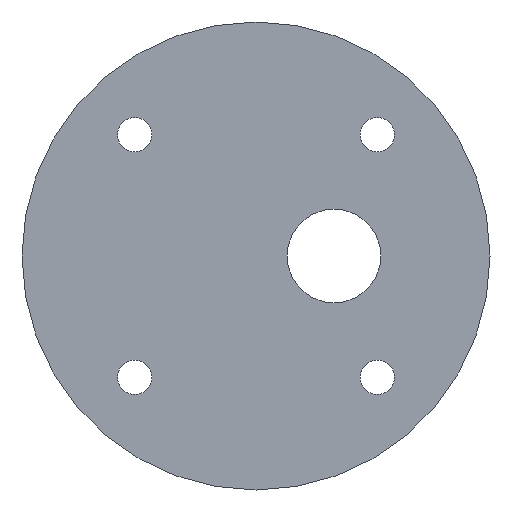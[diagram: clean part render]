
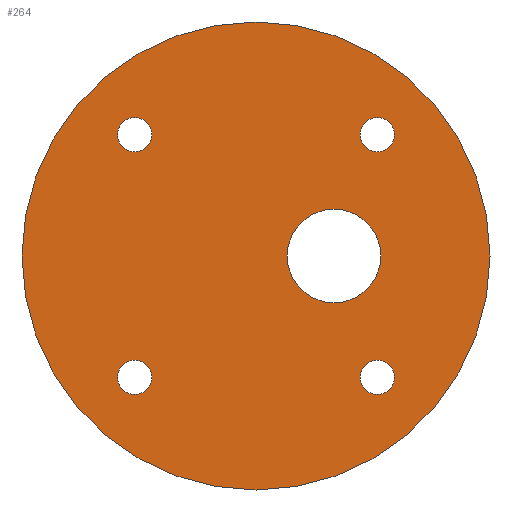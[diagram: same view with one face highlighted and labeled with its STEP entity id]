
A CAD part, left-side view. The second image highlights one B-rep face of the part: STEP entity #264.
In plain terms, the highlighted planar face has unit normal (-1, 0, 0).
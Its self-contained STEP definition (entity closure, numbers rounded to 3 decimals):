
#31 = CYLINDRICAL_SURFACE('',#32,150.);
#32 = AXIS2_PLACEMENT_3D('',#33,#34,#35);
#33 = CARTESIAN_POINT('',(938.,100.,1100.));
#34 = DIRECTION('',(1.,0.,0.));
#35 = DIRECTION('',(-0.,0.,1.));
#56 = VERTEX_POINT('',#57);
#57 = CARTESIAN_POINT('',(938.,100.,1250.));
#78 = EDGE_CURVE('',#56,#56,#79,.T.);
#79 = SURFACE_CURVE('',#80,(#85,#92),.PCURVE_S1.);
#80 = CIRCLE('',#81,150.);
#81 = AXIS2_PLACEMENT_3D('',#82,#83,#84);
#82 = CARTESIAN_POINT('',(938.,100.,1100.));
#83 = DIRECTION('',(1.,0.,0.));
#84 = DIRECTION('',(-0.,0.,1.));
#85 = PCURVE('',#31,#86);
#86 = DEFINITIONAL_REPRESENTATION('',(#87),#91);
#87 = LINE('',#88,#89);
#88 = CARTESIAN_POINT('',(0.,0.));
#89 = VECTOR('',#90,1.);
#90 = DIRECTION('',(1.,0.));
#91 = ( GEOMETRIC_REPRESENTATION_CONTEXT(2) 
PARAMETRIC_REPRESENTATION_CONTEXT() REPRESENTATION_CONTEXT('2D SPACE',''
  ) );
#92 = PCURVE('',#93,#98);
#93 = PLANE('',#94);
#94 = AXIS2_PLACEMENT_3D('',#95,#96,#97);
#95 = CARTESIAN_POINT('',(938.,100.,1100.));
#96 = DIRECTION('',(1.,0.,0.));
#97 = DIRECTION('',(-0.,0.,1.));
#98 = DEFINITIONAL_REPRESENTATION('',(#99),#103);
#99 = CIRCLE('',#100,150.);
#100 = AXIS2_PLACEMENT_2D('',#101,#102);
#101 = CARTESIAN_POINT('',(0.,0.));
#102 = DIRECTION('',(1.,0.));
#103 = ( GEOMETRIC_REPRESENTATION_CONTEXT(2) 
PARAMETRIC_REPRESENTATION_CONTEXT() REPRESENTATION_CONTEXT('2D SPACE',''
  ) );
#129 = CYLINDRICAL_SURFACE('',#130,11.);
#130 = AXIS2_PLACEMENT_3D('',#131,#132,#133);
#131 = CARTESIAN_POINT('',(936.,177.782,1022.218));
#132 = DIRECTION('',(1.,0.,0.));
#133 = DIRECTION('',(-0.,0.,1.));
#160 = CYLINDRICAL_SURFACE('',#161,11.);
#161 = AXIS2_PLACEMENT_3D('',#162,#163,#164);
#162 = CARTESIAN_POINT('',(936.,177.782,1177.782));
#163 = DIRECTION('',(1.,0.,0.));
#164 = DIRECTION('',(-0.,0.,1.));
#191 = CYLINDRICAL_SURFACE('',#192,11.);
#192 = AXIS2_PLACEMENT_3D('',#193,#194,#195);
#193 = CARTESIAN_POINT('',(936.,22.218,1022.218));
#194 = DIRECTION('',(1.,0.,0.));
#195 = DIRECTION('',(-0.,0.,1.));
#222 = CYLINDRICAL_SURFACE('',#223,30.);
#223 = AXIS2_PLACEMENT_3D('',#224,#225,#226);
#224 = CARTESIAN_POINT('',(936.,50.,1100.));
#225 = DIRECTION('',(1.,0.,0.));
#226 = DIRECTION('',(-0.,0.,1.));
#253 = CYLINDRICAL_SURFACE('',#254,11.);
#254 = AXIS2_PLACEMENT_3D('',#255,#256,#257);
#255 = CARTESIAN_POINT('',(936.,22.218,1177.782));
#256 = DIRECTION('',(1.,0.,0.));
#257 = DIRECTION('',(-0.,0.,1.));
#264 = ADVANCED_FACE('',(#265,#268,#294,#320,#346,#372),#93,.F.);
#265 = FACE_BOUND('',#266,.F.);
#266 = EDGE_LOOP('',(#267));
#267 = ORIENTED_EDGE('',*,*,#78,.T.);
#268 = FACE_BOUND('',#269,.F.);
#269 = EDGE_LOOP('',(#270));
#270 = ORIENTED_EDGE('',*,*,#271,.F.);
#271 = EDGE_CURVE('',#272,#272,#274,.T.);
#272 = VERTEX_POINT('',#273);
#273 = CARTESIAN_POINT('',(938.,177.782,1033.218));
#274 = SURFACE_CURVE('',#275,(#280,#287),.PCURVE_S1.);
#275 = CIRCLE('',#276,11.);
#276 = AXIS2_PLACEMENT_3D('',#277,#278,#279);
#277 = CARTESIAN_POINT('',(938.,177.782,1022.218));
#278 = DIRECTION('',(1.,0.,0.));
#279 = DIRECTION('',(-0.,0.,1.));
#280 = PCURVE('',#93,#281);
#281 = DEFINITIONAL_REPRESENTATION('',(#282),#286);
#282 = CIRCLE('',#283,11.);
#283 = AXIS2_PLACEMENT_2D('',#284,#285);
#284 = CARTESIAN_POINT('',(-77.782,-77.782));
#285 = DIRECTION('',(1.,0.));
#286 = ( GEOMETRIC_REPRESENTATION_CONTEXT(2) 
PARAMETRIC_REPRESENTATION_CONTEXT() REPRESENTATION_CONTEXT('2D SPACE',''
  ) );
#287 = PCURVE('',#129,#288);
#288 = DEFINITIONAL_REPRESENTATION('',(#289),#293);
#289 = LINE('',#290,#291);
#290 = CARTESIAN_POINT('',(0.,2.));
#291 = VECTOR('',#292,1.);
#292 = DIRECTION('',(1.,0.));
#293 = ( GEOMETRIC_REPRESENTATION_CONTEXT(2) 
PARAMETRIC_REPRESENTATION_CONTEXT() REPRESENTATION_CONTEXT('2D SPACE',''
  ) );
#294 = FACE_BOUND('',#295,.F.);
#295 = EDGE_LOOP('',(#296));
#296 = ORIENTED_EDGE('',*,*,#297,.F.);
#297 = EDGE_CURVE('',#298,#298,#300,.T.);
#298 = VERTEX_POINT('',#299);
#299 = CARTESIAN_POINT('',(938.,177.782,1188.782));
#300 = SURFACE_CURVE('',#301,(#306,#313),.PCURVE_S1.);
#301 = CIRCLE('',#302,11.);
#302 = AXIS2_PLACEMENT_3D('',#303,#304,#305);
#303 = CARTESIAN_POINT('',(938.,177.782,1177.782));
#304 = DIRECTION('',(1.,0.,0.));
#305 = DIRECTION('',(-0.,0.,1.));
#306 = PCURVE('',#93,#307);
#307 = DEFINITIONAL_REPRESENTATION('',(#308),#312);
#308 = CIRCLE('',#309,11.);
#309 = AXIS2_PLACEMENT_2D('',#310,#311);
#310 = CARTESIAN_POINT('',(77.782,-77.782));
#311 = DIRECTION('',(1.,0.));
#312 = ( GEOMETRIC_REPRESENTATION_CONTEXT(2) 
PARAMETRIC_REPRESENTATION_CONTEXT() REPRESENTATION_CONTEXT('2D SPACE',''
  ) );
#313 = PCURVE('',#160,#314);
#314 = DEFINITIONAL_REPRESENTATION('',(#315),#319);
#315 = LINE('',#316,#317);
#316 = CARTESIAN_POINT('',(0.,2.));
#317 = VECTOR('',#318,1.);
#318 = DIRECTION('',(1.,0.));
#319 = ( GEOMETRIC_REPRESENTATION_CONTEXT(2) 
PARAMETRIC_REPRESENTATION_CONTEXT() REPRESENTATION_CONTEXT('2D SPACE',''
  ) );
#320 = FACE_BOUND('',#321,.F.);
#321 = EDGE_LOOP('',(#322));
#322 = ORIENTED_EDGE('',*,*,#323,.F.);
#323 = EDGE_CURVE('',#324,#324,#326,.T.);
#324 = VERTEX_POINT('',#325);
#325 = CARTESIAN_POINT('',(938.,22.218,1033.218));
#326 = SURFACE_CURVE('',#327,(#332,#339),.PCURVE_S1.);
#327 = CIRCLE('',#328,11.);
#328 = AXIS2_PLACEMENT_3D('',#329,#330,#331);
#329 = CARTESIAN_POINT('',(938.,22.218,1022.218));
#330 = DIRECTION('',(1.,0.,0.));
#331 = DIRECTION('',(-0.,0.,1.));
#332 = PCURVE('',#93,#333);
#333 = DEFINITIONAL_REPRESENTATION('',(#334),#338);
#334 = CIRCLE('',#335,11.);
#335 = AXIS2_PLACEMENT_2D('',#336,#337);
#336 = CARTESIAN_POINT('',(-77.782,77.782));
#337 = DIRECTION('',(1.,0.));
#338 = ( GEOMETRIC_REPRESENTATION_CONTEXT(2) 
PARAMETRIC_REPRESENTATION_CONTEXT() REPRESENTATION_CONTEXT('2D SPACE',''
  ) );
#339 = PCURVE('',#191,#340);
#340 = DEFINITIONAL_REPRESENTATION('',(#341),#345);
#341 = LINE('',#342,#343);
#342 = CARTESIAN_POINT('',(0.,2.));
#343 = VECTOR('',#344,1.);
#344 = DIRECTION('',(1.,0.));
#345 = ( GEOMETRIC_REPRESENTATION_CONTEXT(2) 
PARAMETRIC_REPRESENTATION_CONTEXT() REPRESENTATION_CONTEXT('2D SPACE',''
  ) );
#346 = FACE_BOUND('',#347,.F.);
#347 = EDGE_LOOP('',(#348));
#348 = ORIENTED_EDGE('',*,*,#349,.F.);
#349 = EDGE_CURVE('',#350,#350,#352,.T.);
#350 = VERTEX_POINT('',#351);
#351 = CARTESIAN_POINT('',(938.,50.,1130.));
#352 = SURFACE_CURVE('',#353,(#358,#365),.PCURVE_S1.);
#353 = CIRCLE('',#354,30.);
#354 = AXIS2_PLACEMENT_3D('',#355,#356,#357);
#355 = CARTESIAN_POINT('',(938.,50.,1100.));
#356 = DIRECTION('',(1.,0.,0.));
#357 = DIRECTION('',(-0.,0.,1.));
#358 = PCURVE('',#93,#359);
#359 = DEFINITIONAL_REPRESENTATION('',(#360),#364);
#360 = CIRCLE('',#361,30.);
#361 = AXIS2_PLACEMENT_2D('',#362,#363);
#362 = CARTESIAN_POINT('',(0.,50.));
#363 = DIRECTION('',(1.,0.));
#364 = ( GEOMETRIC_REPRESENTATION_CONTEXT(2) 
PARAMETRIC_REPRESENTATION_CONTEXT() REPRESENTATION_CONTEXT('2D SPACE',''
  ) );
#365 = PCURVE('',#222,#366);
#366 = DEFINITIONAL_REPRESENTATION('',(#367),#371);
#367 = LINE('',#368,#369);
#368 = CARTESIAN_POINT('',(0.,2.));
#369 = VECTOR('',#370,1.);
#370 = DIRECTION('',(1.,0.));
#371 = ( GEOMETRIC_REPRESENTATION_CONTEXT(2) 
PARAMETRIC_REPRESENTATION_CONTEXT() REPRESENTATION_CONTEXT('2D SPACE',''
  ) );
#372 = FACE_BOUND('',#373,.F.);
#373 = EDGE_LOOP('',(#374));
#374 = ORIENTED_EDGE('',*,*,#375,.F.);
#375 = EDGE_CURVE('',#376,#376,#378,.T.);
#376 = VERTEX_POINT('',#377);
#377 = CARTESIAN_POINT('',(938.,22.218,1188.782));
#378 = SURFACE_CURVE('',#379,(#384,#391),.PCURVE_S1.);
#379 = CIRCLE('',#380,11.);
#380 = AXIS2_PLACEMENT_3D('',#381,#382,#383);
#381 = CARTESIAN_POINT('',(938.,22.218,1177.782));
#382 = DIRECTION('',(1.,0.,0.));
#383 = DIRECTION('',(-0.,0.,1.));
#384 = PCURVE('',#93,#385);
#385 = DEFINITIONAL_REPRESENTATION('',(#386),#390);
#386 = CIRCLE('',#387,11.);
#387 = AXIS2_PLACEMENT_2D('',#388,#389);
#388 = CARTESIAN_POINT('',(77.782,77.782));
#389 = DIRECTION('',(1.,0.));
#390 = ( GEOMETRIC_REPRESENTATION_CONTEXT(2) 
PARAMETRIC_REPRESENTATION_CONTEXT() REPRESENTATION_CONTEXT('2D SPACE',''
  ) );
#391 = PCURVE('',#253,#392);
#392 = DEFINITIONAL_REPRESENTATION('',(#393),#397);
#393 = LINE('',#394,#395);
#394 = CARTESIAN_POINT('',(0.,2.));
#395 = VECTOR('',#396,1.);
#396 = DIRECTION('',(1.,0.));
#397 = ( GEOMETRIC_REPRESENTATION_CONTEXT(2) 
PARAMETRIC_REPRESENTATION_CONTEXT() REPRESENTATION_CONTEXT('2D SPACE',''
  ) );
